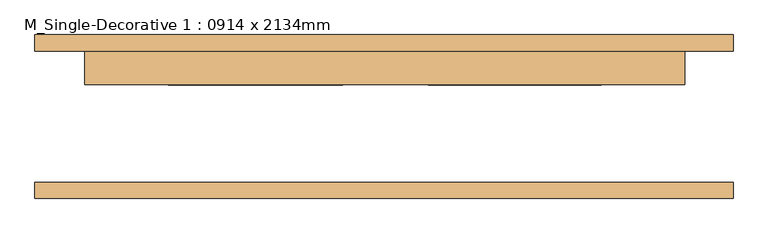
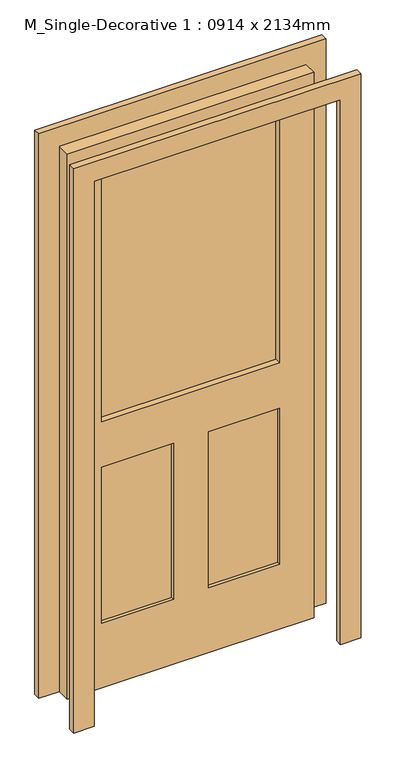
"""IFC4 building model written with IfcOpenShell, lengths in millimetres: door geometry, M_Single-Decorative 1 : 0914 x 2134mm."""

import ifcopenshell
import ifcopenshell.guid

model = None  # the IFC model being written
_history = None  # IfcOwnerHistory: only IFC2X3 demands one
_inside = {}  # id of a spatial element -> (the spatial element, [elements in it])
_under = {}  # id of a project, library or spatial element -> (it, [spatial elements below it])
_declared = {}  # id of a project -> (the project, [libraries it declares])
_typed = {}  # id of a type object -> (the type object, [elements of that type])
_made_of = {}  # id of a material, layer set ... -> (it, [elements and type objects made of it])


def new_model(schema):
    """Start an empty IFC model of exactly this schema.

    Asked for "IFC4X3", IfcOpenShell would pick the latest addendum, in which some entities
    have other attributes; the version numbers below select the first issue.
    IFC2X3 requires an IfcOwnerHistory on every rooted entity: one is made here for all.
    """
    global model, _history
    if schema == "IFC4X3":
        model = ifcopenshell.file(schema_version=(4, 3, 0, 0))
    else:
        model = ifcopenshell.file(schema=schema)
    _inside.clear()
    _under.clear()
    _declared.clear()
    _typed.clear()
    _made_of.clear()
    _history = None
    if model.schema == "IFC2X3":
        org = make("IfcOrganization", Name="unknown")
        user = make(
            "IfcPersonAndOrganization",
            ThePerson=make("IfcPerson", FamilyName="unknown"),
            TheOrganization=org,
        )
        app = make(
            "IfcApplication",
            ApplicationDeveloper=org,
            Version="unknown",
            ApplicationFullName="unknown",
            ApplicationIdentifier="unknown",
        )
        _history = make(
            "IfcOwnerHistory",
            OwningUser=user,
            OwningApplication=app,
            ChangeAction="ADDED",
            CreationDate=0,
        )
    return model


def make(cls, **values):
    """One entity of the class cls with the attributes given. An attribute that is None is left unset."""
    return model.create_entity(
        cls, **{name: value for name, value in values.items() if value is not None}
    )


def rooted(cls, **values):
    """An entity with a GlobalId (a new one), such as an element, a storey or a relation."""
    return make(cls, GlobalId=ifcopenshell.guid.new(), OwnerHistory=_history, **values)


def si_unit(unit_type, name, prefix=None):
    """IfcSIUnit, for example si_unit("LENGTHUNIT", "METRE", prefix="MILLI")."""
    return make("IfcSIUnit", UnitType=unit_type, Prefix=prefix, Name=name)


def assignment(units):
    """IfcUnitAssignment: the units of a project."""
    return None if units is None else make("IfcUnitAssignment", Units=units)


def point(xyz):
    """IfcCartesianPoint."""
    return None if xyz is None else make("IfcCartesianPoint", Coordinates=xyz)


def direction(xyz):
    """IfcDirection."""
    return None if xyz is None else make("IfcDirection", DirectionRatios=xyz)


def frame(location, z_axis=None, x_axis=None):
    """IfcAxis2Placement3D, a coordinate frame: its origin and axes. An axis left out is left unset."""
    return make(
        "IfcAxis2Placement3D",
        Location=point(location),
        Axis=direction(z_axis),
        RefDirection=direction(x_axis),
    )


def origin():
    """The frame at (0, 0, 0) with its axes left unset."""
    return frame((0.0, 0.0, 0.0))


def place(relative_to, where):
    """IfcLocalPlacement: puts the frame where relative to a parent placement (None: the world)."""
    return make(
        "IfcLocalPlacement", PlacementRelTo=relative_to, RelativePlacement=where
    )


def context(
    kind, dimensions, precision=None, world=None, true_north=None, identifier=None
):
    """IfcGeometricRepresentationContext, for example the 3D "Model" context."""
    return make(
        "IfcGeometricRepresentationContext",
        ContextIdentifier=identifier,
        ContextType=kind,
        CoordinateSpaceDimension=dimensions,
        Precision=precision,
        WorldCoordinateSystem=world,
        TrueNorth=true_north,
    )


def project(units=None, contexts=None):
    """IfcProject with its units and contexts."""
    return rooted(
        "IfcProject",
        Name="project",
        RepresentationContexts=contexts,
        UnitsInContext=assignment(units),
    )


def spatial(cls, under=None, at=None, **own):
    """A site, building, storey or space (cls), placed at a placement, below another one or the project."""
    s = rooted(cls, ObjectPlacement=at, **own)
    if under is not None:
        _under.setdefault(under.id(), (under, []))[1].append(s)
    return s


def polyline(points):
    """IfcPolyline through the points."""
    return make("IfcPolyline", Points=[point(p) for p in points])


def outline(outer, holes=None, kind="AREA"):
    """IfcArbitraryClosedProfileDef: a profile drawn as a closed curve; with holes, ...WithVoids."""
    if holes is None:
        return make("IfcArbitraryClosedProfileDef", ProfileType=kind, OuterCurve=outer)
    return make(
        "IfcArbitraryProfileDefWithVoids",
        ProfileType=kind,
        OuterCurve=outer,
        InnerCurves=holes,
    )


def extrude(swept, where, along, depth):
    """IfcExtrudedAreaSolid: the profile swept, set in the frame where, extruded along a direction by depth."""
    return make(
        "IfcExtrudedAreaSolid",
        SweptArea=swept,
        Position=where,
        ExtrudedDirection=direction(along),
        Depth=depth,
    )


def shape(context_of_items, identifier, shape_type, items):
    """IfcShapeRepresentation: the items that make up one representation, for example the "Body"."""
    return make(
        "IfcShapeRepresentation",
        ContextOfItems=context_of_items,
        RepresentationIdentifier=identifier,
        RepresentationType=shape_type,
        Items=items,
    )


def source(mapping_origin, context_of_items, identifier, shape_type, items):
    """IfcRepresentationMap: a shape defined once, which mapped items show again and again."""
    return make(
        "IfcRepresentationMap",
        MappingOrigin=mapping_origin,
        MappedRepresentation=shape(context_of_items, identifier, shape_type, items),
    )


def transform(
    local_origin,
    x_axis=None,
    y_axis=None,
    z_axis=None,
    scale=None,
    scale2=None,
    scale3=None,
    uniform=True,
):
    """IfcCartesianTransformationOperator3D, or its non-uniform kind. x_axis, y_axis, z_axis: its Axis1, 2, 3."""
    if uniform:
        return make(
            "IfcCartesianTransformationOperator3D",
            Axis1=direction(x_axis),
            Axis2=direction(y_axis),
            LocalOrigin=point(local_origin),
            Scale=scale,
            Axis3=direction(z_axis),
        )
    return make(
        "IfcCartesianTransformationOperator3DnonUniform",
        Axis1=direction(x_axis),
        Axis2=direction(y_axis),
        LocalOrigin=point(local_origin),
        Scale=scale,
        Axis3=direction(z_axis),
        Scale2=scale2,
        Scale3=scale3,
    )


def mapped(mapping_source, mapping_target):
    """IfcMappedItem: shows the shape of a source again, moved by a transform."""
    return make(
        "IfcMappedItem", MappingSource=mapping_source, MappingTarget=mapping_target
    )


def made_of(thing, what):
    """Note that an element or type object is made of a material, layer set ...; save() writes the relation."""
    if what is not None:
        _made_of.setdefault(what.id(), (what, []))[1].append(thing)
    return thing


def element(
    cls,
    number,
    at=None,
    inside=None,
    cuts=None,
    type_object=None,
    material=None,
    context=None,
    identifier="Body",
    shape_type=None,
    held_by="IfcProductDefinitionShape",
    body=None,
    shapes=None,
    **own,
):
    """One element of the class cls, such as IfcWall. Its Tag is "e" and its number.

    at: its placement. inside: the storey or other place that contains it. cuts: it is an
    opening in that element (IfcRelVoidsElement). A single representation is given by context,
    identifier, shape_type and body (its items); several are given by shapes. held_by: the class
    of the entity that holds the representations. save() writes the other relations.
    """
    e = rooted(cls, Tag="e%d" % number, ObjectPlacement=at, **own)
    if body is not None:
        shapes = [shape(context, identifier, shape_type, body)]
    if shapes is not None:
        e.Representation = make(held_by, Representations=shapes)
    if inside is not None:
        _inside.setdefault(inside.id(), (inside, []))[1].append(e)
    if cuts is not None:
        rooted(
            "IfcRelVoidsElement", RelatingBuildingElement=cuts, RelatedOpeningElement=e
        )
    if type_object is not None:
        _typed.setdefault(type_object.id(), (type_object, []))[1].append(e)
    return made_of(e, material)


def aggregate(whole, parts):
    """IfcRelAggregates: a whole, such as a stair, and the parts it consists of."""
    return rooted("IfcRelAggregates", RelatingObject=whole, RelatedObjects=parts)


def save(model, path):
    """Write the relations noted so far, then the file.

    IfcRelAggregates (storeys below a building ...), IfcRelContainedInSpatialStructure (elements
    in a storey), IfcRelDefinesByType, IfcRelAssociatesMaterial and IfcRelDeclares: one each for
    every whole, place, type object, material and project.
    """
    for whole, parts in _under.values():
        aggregate(whole, parts)
    for where, things in _inside.values():
        rooted(
            "IfcRelContainedInSpatialStructure",
            RelatedElements=things,
            RelatingStructure=where,
        )
    for kind, things in _typed.values():
        rooted("IfcRelDefinesByType", RelatedObjects=things, RelatingType=kind)
    for what, things in _made_of.values():
        rooted("IfcRelAssociatesMaterial", RelatedObjects=things, RelatingMaterial=what)
    for by, libraries in _declared.values():
        rooted("IfcRelDeclares", RelatingContext=by, RelatedDefinitions=libraries)
    model.write(path)


def m_single_decorative_1_0914_x_2134mm_d79a5f66(model_context):
    return source(origin(), model_context, "Body", "SweptSolid", [
        extrude(outline(polyline([(2209.0, -532.0), (0.0, -532.0), (0.0, -457.0), (2134.0, -457.0), (2134.0, 457.0), (0.0, 457.0), (0.0, 532.0), (2209.0, 532.0), (2209.0, -532.0)])), frame((0.0, 100.0, 0.0), z_axis=(0.0, 1.0, 0.0), x_axis=(0.0, 0.0, 1.0)), (0.0, 0.0, 1.0), 25.0),
        extrude(outline(polyline([(66.2296572, 87.0), (330.0, 87.0), (330.0, 61.0), (66.2296572, 61.0), (66.2296572, 87.0)])), frame((0.0, 0.0, 254.0), z_axis=(0.0, 0.0, 1.0), x_axis=(1.0, 0.0, 0.0)), (0.0, 0.0, 1.0), 610.0),
        extrude(outline(polyline([(-330.0, 87.0), (-64.0, 87.0), (-64.0, 61.0), (-330.0, 61.0), (-330.0, 87.0)])), frame((0.0, 0.0, 254.0), z_axis=(0.0, 0.0, 1.0), x_axis=(1.0, 0.0, 0.0)), (0.0, 0.0, 1.0), 610.0),
        extrude(outline(polyline([(-330.0, 78.0), (330.0, 78.0), (330.0, 72.0), (-330.0, 72.0), (-330.0, 78.0)])), frame((0.0, 0.0, 1042.0), z_axis=(0.0, 0.0, 1.0), x_axis=(1.0, 0.0, 0.0)), (0.0, 0.0, 1.0), 965.0),
        extrude(outline(polyline([(2134.0, -455.6666667), (0.0, -455.6666667), (0.0, 458.3333333), (2134.0, 458.3333333), (2134.0, -455.6666667)]), holes=[polyline([(2007.0, -328.6666667), (2007.0, 331.3333333), (1042.0, 331.3333333), (1042.0, -328.6666667), (2007.0, -328.6666667)]), polyline([(864.0, 67.5629905), (864.0, 331.3333333), (254.0, 331.3333333), (254.0, 67.5629905), (864.0, 67.5629905)]), polyline([(864.0, -328.6666667), (864.0, -62.6666667), (254.0, -62.6666667), (254.0, -328.6666667), (864.0, -328.6666667)])]), frame((0.0, 49.0, 0.0), z_axis=(0.0, 1.0, 0.0), x_axis=(0.0, 0.0, 1.0)), (0.0, 0.0, 1.0), 51.0),
        extrude(outline(polyline([(2209.0, -532.0), (0.0, -532.0), (0.0, -457.0), (2134.0, -457.0), (2134.0, 457.0), (0.0, 457.0), (0.0, 532.0), (2209.0, 532.0), (2209.0, -532.0)])), frame((0.0, -125.0, 0.0), z_axis=(0.0, 1.0, 0.0), x_axis=(0.0, 0.0, 1.0)), (0.0, 0.0, 1.0), 25.0),
    ])


if __name__ == "__main__":
    model = new_model("IFC4")
    model_context = context("Model", 3, world=origin())
    ifc_project = project(units=[si_unit("LENGTHUNIT", "METRE", prefix="MILLI")], contexts=[model_context])
    site = spatial("IfcSite", under=ifc_project)
    building = spatial("IfcBuilding", under=site)
    placement = place(None, origin())
    m_single_decorative_1_0914_x_2134mm_shape = m_single_decorative_1_0914_x_2134mm_d79a5f66(model_context)
    element("IfcDoor", 1, ObjectType="M_Single-Decorative 1 : 0914 x 2134mm", at=placement, inside=building, context=model_context, shape_type="MappedRepresentation", body=[
        mapped(m_single_decorative_1_0914_x_2134mm_shape, transform((0.0, 0.0, 0.0), x_axis=(1.0, 0.0, 0.0), y_axis=(0.0, 1.0, 0.0), z_axis=(0.0, 0.0, 1.0))),
    ])
    save(model, "model.ifc")
